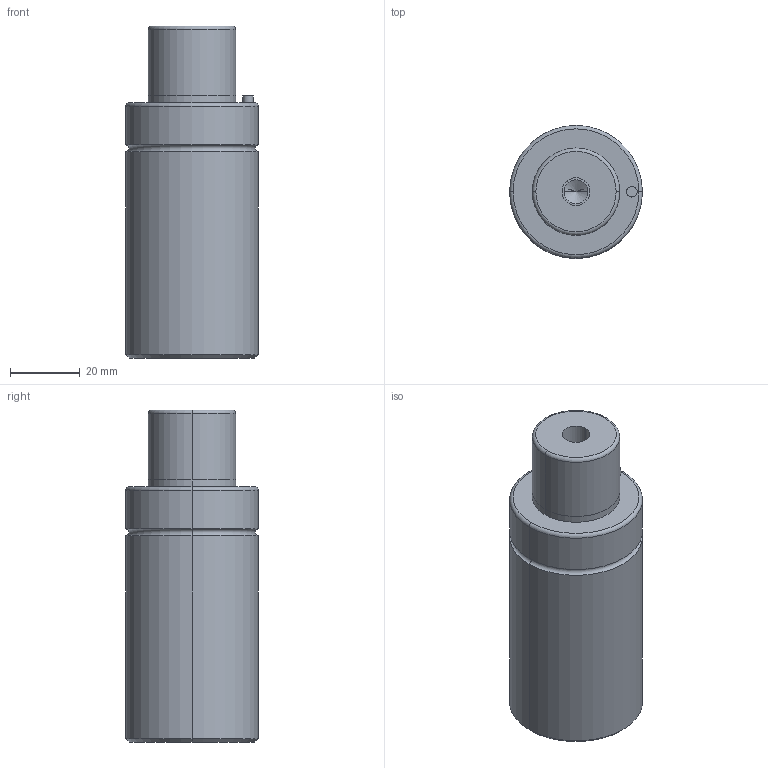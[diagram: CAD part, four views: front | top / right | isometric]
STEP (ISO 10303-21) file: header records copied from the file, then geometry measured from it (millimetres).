
FILE_DESCRIPTION(/* description */ (''),/* implementation_level */ '2;1');
FILE_NAME(/* name */ '3d_gsm38-20_03919_r00.stp',/* time_stamp */ '2011-01-10T14:15:16+09:00',/* author */ ('MISUMI'),/* organization */ (''),/* preprocessor_version */ 'ST-DEVELOPER v11',/* originating_system */ 'UGS - NX 5.0',/* authorisation */ '');
FILE_SCHEMA (('CONFIG_CONTROL_DESIGN'));
Length unit declared in the file: millimetre
Products named in the file (1): 3d_gsm38-20_03919_r00
Bounding box: 38 x 38 x 95 mm (x, y, z)
Volume: 91534.4 mm3; surface area: 13688.2 mm2
Topology: 1 solids, 1 shells, 50 faces, 106 edges, 60 vertices
Faces by surface type: cylinder 26, cone 10, plane 8, torus 6
Entity records: 1382 total; most frequent: DIRECTION 262, CARTESIAN_POINT 209, ORIENTED_EDGE 196, AXIS2_PLACEMENT_3D 113, EDGE_CURVE 98, CIRCLE 62, EDGE_LOOP 60, VERTEX_POINT 60
